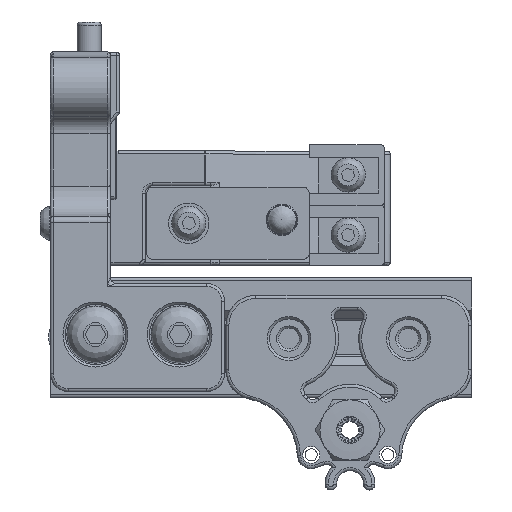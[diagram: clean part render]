
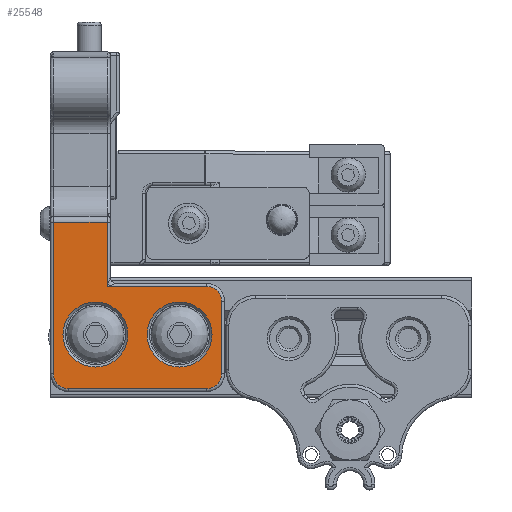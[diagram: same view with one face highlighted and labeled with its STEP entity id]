
A CAD part, top view. The second image highlights one B-rep face of the part: STEP entity #25548.
In plain terms, the highlighted planar face has unit normal (0, 0, 1).
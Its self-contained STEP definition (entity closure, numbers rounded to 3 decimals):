
#737=FACE_BOUND('',#8268,.T.);
#738=FACE_BOUND('',#8269,.T.);
#2009=PLANE('',#28062);
#3016=LINE('',#83498,#4478);
#3018=LINE('',#83510,#4480);
#3021=LINE('',#83526,#4483);
#3124=LINE('',#84409,#4586);
#3125=LINE('',#84411,#4587);
#3126=LINE('',#84412,#4588);
#4478=VECTOR('',#32879,10.);
#4480=VECTOR('',#32893,10.);
#4483=VECTOR('',#32914,10.);
#4586=VECTOR('',#33309,10.);
#4587=VECTOR('',#33310,1.);
#4588=VECTOR('',#33311,10.);
#6668=FACE_OUTER_BOUND('',#8267,.T.);
#8267=EDGE_LOOP('',(#21355,#21356,#21357,#21358,#21359,#21360,#21361,#21362,
#21363));
#8268=EDGE_LOOP('',(#21364));
#8269=EDGE_LOOP('',(#21365));
#9570=CIRCLE('',#27906,2.5);
#9572=CIRCLE('',#27910,2.5);
#9573=CIRCLE('',#27912,5.4);
#9574=CIRCLE('',#27914,5.4);
#9609=CIRCLE('',#27968,2.5);
#11779=VERTEX_POINT('',#83495);
#11780=VERTEX_POINT('',#83497);
#11782=VERTEX_POINT('',#83503);
#11783=VERTEX_POINT('',#83505);
#11784=VERTEX_POINT('',#83509);
#11785=VERTEX_POINT('',#83515);
#11786=VERTEX_POINT('',#83519);
#11787=VERTEX_POINT('',#83523);
#11822=VERTEX_POINT('',#83708);
#11910=VERTEX_POINT('',#84408);
#11911=VERTEX_POINT('',#84410);
#14997=EDGE_CURVE('',#11779,#11780,#3016,.T.);
#15002=EDGE_CURVE('',#11783,#11782,#9570,.T.);
#15003=EDGE_CURVE('',#11782,#11784,#3018,.T.);
#15005=EDGE_CURVE('',#11784,#11779,#9572,.T.);
#15006=EDGE_CURVE('',#11785,#11785,#9573,.T.);
#15008=EDGE_CURVE('',#11786,#11786,#9574,.T.);
#15011=EDGE_CURVE('',#11787,#11783,#3021,.T.);
#15066=EDGE_CURVE('',#11780,#11822,#9609,.T.);
#15217=EDGE_CURVE('',#11910,#11787,#3124,.T.);
#15218=EDGE_CURVE('',#11911,#11910,#3125,.T.);
#15219=EDGE_CURVE('',#11822,#11911,#3126,.T.);
#21355=ORIENTED_EDGE('',*,*,#15005,.F.);
#21356=ORIENTED_EDGE('',*,*,#15003,.F.);
#21357=ORIENTED_EDGE('',*,*,#15002,.F.);
#21358=ORIENTED_EDGE('',*,*,#15011,.F.);
#21359=ORIENTED_EDGE('',*,*,#15217,.F.);
#21360=ORIENTED_EDGE('',*,*,#15218,.F.);
#21361=ORIENTED_EDGE('',*,*,#15219,.F.);
#21362=ORIENTED_EDGE('',*,*,#15066,.F.);
#21363=ORIENTED_EDGE('',*,*,#14997,.F.);
#21364=ORIENTED_EDGE('',*,*,#15008,.F.);
#21365=ORIENTED_EDGE('',*,*,#15006,.F.);
#25548=ADVANCED_FACE('',(#6668,#737,#738),#2009,.F.);
#27906=AXIS2_PLACEMENT_3D('',#83507,#32889,#32890);
#27910=AXIS2_PLACEMENT_3D('',#83513,#32898,#32899);
#27912=AXIS2_PLACEMENT_3D('',#83516,#32902,#32903);
#27914=AXIS2_PLACEMENT_3D('',#83520,#32907,#32908);
#27968=AXIS2_PLACEMENT_3D('',#83712,#33034,#33035);
#28062=AXIS2_PLACEMENT_3D('',#84407,#33307,#33308);
#32879=DIRECTION('',(-1.,0.,0.));
#32889=DIRECTION('center_axis',(0.,0.,
-1.));
#32890=DIRECTION('ref_axis',(0.707,0.707,0.));
#32893=DIRECTION('',(0.,-1.,0.));
#32898=DIRECTION('center_axis',(0.,0.,
-1.));
#32899=DIRECTION('ref_axis',(0.881,-0.473,0.));
#32902=DIRECTION('center_axis',(0.,0.,
1.));
#32903=DIRECTION('ref_axis',(-1.,0.,0.));
#32907=DIRECTION('center_axis',(0.,0.,
1.));
#32908=DIRECTION('ref_axis',(-1.,0.,0.));
#32914=DIRECTION('',(1.,0.,0.));
#33034=DIRECTION('center_axis',(0.,0.,
-1.));
#33035=DIRECTION('ref_axis',(-0.473,-0.881,0.));
#33307=DIRECTION('center_axis',(0.,0.,
-1.));
#33308=DIRECTION('ref_axis',(0.,-1.,0.));
#33309=DIRECTION('',(0.,-1.,0.));
#33310=DIRECTION('',(1.,0.,0.));
#33311=DIRECTION('',(0.,1.,0.));
#83495=CARTESIAN_POINT('',(-8.718,28.852,34.65));
#83497=CARTESIAN_POINT('',(-31.678,28.852,34.65));
#83498=CARTESIAN_POINT('',(-15.218,28.852,34.65));
#83503=CARTESIAN_POINT('',(-6.218,43.352,34.65));
#83505=CARTESIAN_POINT('',(-8.718,45.852,34.65));
#83507=CARTESIAN_POINT('Origin',(-8.718,43.352,34.65));
#83509=CARTESIAN_POINT('',(-6.218,31.352,34.65));
#83510=CARTESIAN_POINT('',(-6.218,52.436,34.65));
#83513=CARTESIAN_POINT('Origin',(-8.718,31.352,34.65));
#83515=CARTESIAN_POINT('',(-21.788,37.852,34.65));
#83516=CARTESIAN_POINT('Origin',(-27.188,37.852,34.65));
#83519=CARTESIAN_POINT('',(-7.808,37.852,34.65));
#83520=CARTESIAN_POINT('Origin',(-13.208,37.852,34.65));
#83523=CARTESIAN_POINT('',(-25.218,45.852,34.65));
#83526=CARTESIAN_POINT('',(-24.968,45.852,34.65));
#83708=CARTESIAN_POINT('',(-34.178,31.352,34.65));
#83712=CARTESIAN_POINT('Origin',(-31.678,31.352,34.65));
#84407=CARTESIAN_POINT('Origin',(-24.718,57.52,34.65));
#84408=CARTESIAN_POINT('',(-25.218,56.52,34.65));
#84409=CARTESIAN_POINT('',(-25.218,49.061,34.65));
#84410=CARTESIAN_POINT('',(-34.178,56.52,34.65));
#84411=CARTESIAN_POINT('',(-23.961,56.52,34.65));
#84412=CARTESIAN_POINT('',(-34.178,64.751,34.65));
